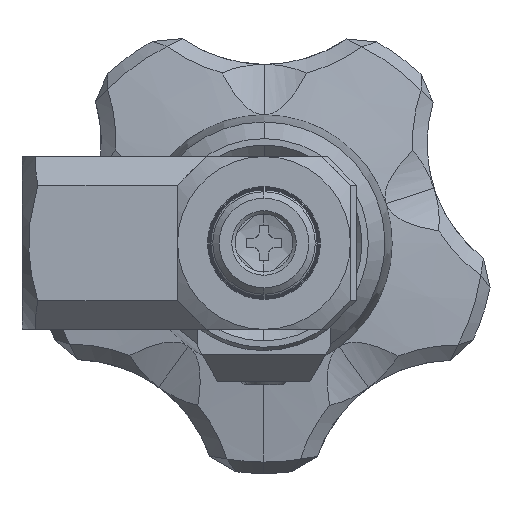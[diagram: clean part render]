
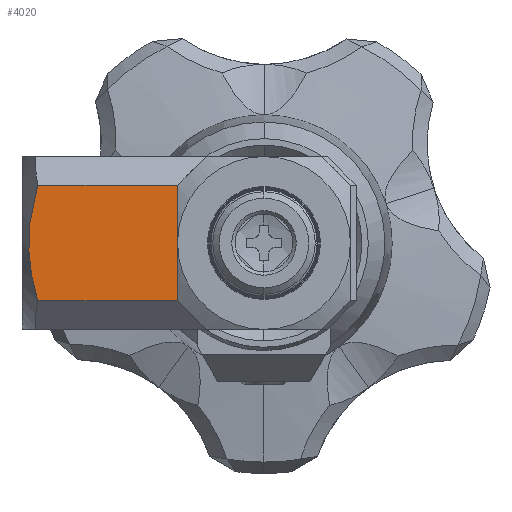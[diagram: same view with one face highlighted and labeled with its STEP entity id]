
A CAD part, front view. The second image highlights one B-rep face of the part: STEP entity #4020.
In plain terms, the highlighted planar face has unit normal (0, -1, 0).
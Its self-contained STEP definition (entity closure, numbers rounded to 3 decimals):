
#14 = CARTESIAN_POINT ( 'NONE',  ( -19.637, -8.5, 5. ) ) ;
#126 = CARTESIAN_POINT ( 'NONE',  ( -20.075, -8.5, -3.354 ) ) ;
#1545 = CARTESIAN_POINT ( 'NONE',  ( -7.5, -8.5, 5. ) ) ;
#1839 = B_SPLINE_CURVE_WITH_KNOTS ( 'NONE', 3,
 ( #14, #2555, #10220, #27928, #12768, #30483, #15306, #126, #17864, #2666 ),
 .UNSPECIFIED., .F., .F.,
 ( 4, 2, 2, 2, 4 ),
 ( 0.022, 0.025, 0.027, 0.03, 0.032 ),
 .UNSPECIFIED. ) ;
#2328 = CARTESIAN_POINT ( 'NONE',  ( -7.5, -8.5, -5. ) ) ;
#2555 = CARTESIAN_POINT ( 'NONE',  ( -19.873, -8.5, 4.192 ) ) ;
#2666 = CARTESIAN_POINT ( 'NONE',  ( -19.637, -8.5, -5. ) ) ;
#3041 = ORIENTED_EDGE ( 'NONE', *, *, #5511, .T. ) ;
#3617 = CARTESIAN_POINT ( 'NONE',  ( -19.637, -8.5, 5. ) ) ;
#3901 = VERTEX_POINT ( 'NONE', #26396 ) ;
#4020 = ADVANCED_FACE ( 'NONE', ( #23473 ), #27133, .T. ) ;
#4777 = ORIENTED_EDGE ( 'NONE', *, *, #17341, .T. ) ;
#5511 = EDGE_CURVE ( 'NONE', #23770, #3901, #1839, .T. ) ;
#6938 = DIRECTION ( 'NONE',  ( 0., -1., 0. ) ) ;
#7505 = VERTEX_POINT ( 'NONE', #2328 ) ;
#7796 = EDGE_CURVE ( 'NONE', #9902, #7505, #28740, .T. ) ;
#8214 = CARTESIAN_POINT ( 'NONE',  ( -7.5, -8.5, -5. ) ) ;
#9902 = VERTEX_POINT ( 'NONE', #1545 ) ;
#10220 = CARTESIAN_POINT ( 'NONE',  ( -20.07, -8.5, 3.374 ) ) ;
#10264 = DIRECTION ( 'NONE',  ( -1., 0., 0. ) ) ;
#12768 = CARTESIAN_POINT ( 'NONE',  ( -20.423, -8.5, 0.847 ) ) ;
#13583 = VECTOR ( 'NONE', #10264, 1000. ) ;
#14135 = EDGE_LOOP ( 'NONE', ( #17004, #3041, #4777, #16128 ) ) ;
#15250 = VECTOR ( 'NONE', #31010, 1000. ) ;
#15306 = CARTESIAN_POINT ( 'NONE',  ( -20.349, -8.5, -1.684 ) ) ;
#15825 = AXIS2_PLACEMENT_3D ( 'NONE', #22076, #6938, #24666 ) ;
#16128 = ORIENTED_EDGE ( 'NONE', *, *, #7796, .F. ) ;
#16870 = EDGE_CURVE ( 'NONE', #9902, #23770, #27090, .T. ) ;
#17004 = ORIENTED_EDGE ( 'NONE', *, *, #16870, .T. ) ;
#17341 = EDGE_CURVE ( 'NONE', #3901, #7505, #29554, .T. ) ;
#17864 = CARTESIAN_POINT ( 'NONE',  ( -19.874, -8.5, -4.187 ) ) ;
#22076 = CARTESIAN_POINT ( 'NONE',  ( -21., -8.5, 7.5 ) ) ;
#23473 = FACE_OUTER_BOUND ( 'NONE', #14135, .T. ) ;
#23770 = VERTEX_POINT ( 'NONE', #3617 ) ;
#24666 = DIRECTION ( 'NONE',  ( 0., 0., -1. ) ) ;
#24821 = CARTESIAN_POINT ( 'NONE',  ( -7.5, -8.5, -7.5 ) ) ;
#25461 = CARTESIAN_POINT ( 'NONE',  ( -21., -8.5, 5. ) ) ;
#26396 = CARTESIAN_POINT ( 'NONE',  ( -19.637, -8.5, -5. ) ) ;
#27090 = LINE ( 'NONE', #25461, #13583 ) ;
#27133 = PLANE ( 'NONE',  #15825 ) ;
#27377 = DIRECTION ( 'NONE',  ( 0., 0., -1. ) ) ;
#27928 = CARTESIAN_POINT ( 'NONE',  ( -20.346, -8.5, 1.705 ) ) ;
#28740 = LINE ( 'NONE', #24821, #31089 ) ;
#29554 = LINE ( 'NONE', #8214, #15250 ) ;
#30483 = CARTESIAN_POINT ( 'NONE',  ( -20.423, -8.5, -0.844 ) ) ;
#31010 = DIRECTION ( 'NONE',  ( 1., 0., 0. ) ) ;
#31089 = VECTOR ( 'NONE', #27377, 1000. ) ;
